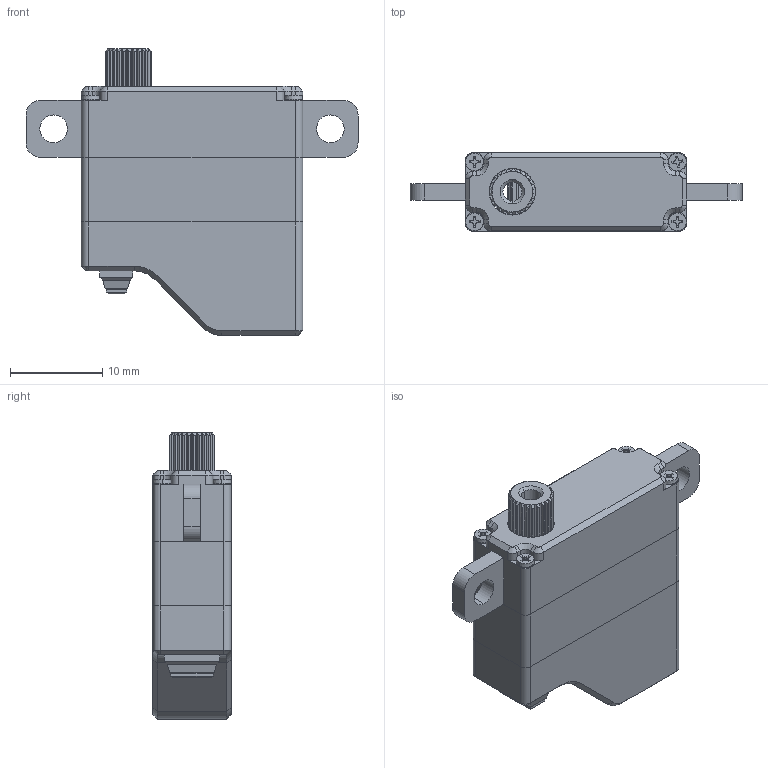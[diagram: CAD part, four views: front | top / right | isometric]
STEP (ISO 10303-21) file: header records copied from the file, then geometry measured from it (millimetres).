
FILE_DESCRIPTION (( 'STEP AP214' ), '1' );
FILE_NAME ('HV85H_DM_20230201.STEP', '2023-02-01T07:01:31', ( '微软用户' ), ( '微软中国' ), 'SwSTEP 2.0', 'SolidWorks 2016', '' );
FILE_SCHEMA (( 'AUTOMOTIVE_DESIGN' ));
Length unit declared in the file: millimetre
Products named in the file (1): HV85H_DM_20230201
Bounding box: 36 x 8.5 x 31.1 mm (x, y, z)
Surface area: 2387.4 mm2 (no closed solid volume)
Topology: 0 solids, 12 shells, 378 faces, 1059 edges, 699 vertices
Faces by surface type: plane 203, cylinder 115, cone 44, bspline 16
Entity records: 16775 total; most frequent: CARTESIAN_POINT 2949, ORIENTED_EDGE 2006, DIRECTION 1966, EDGE_CURVE 1059, VERTEX_POINT 699, AXIS2_PLACEMENT_3D 661, VECTOR 644, LINE 644
